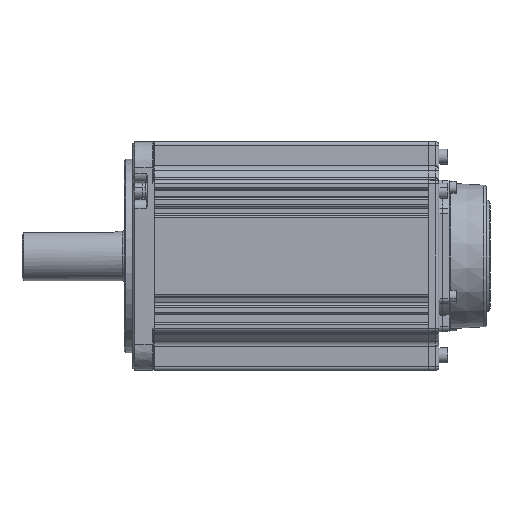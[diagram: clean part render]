
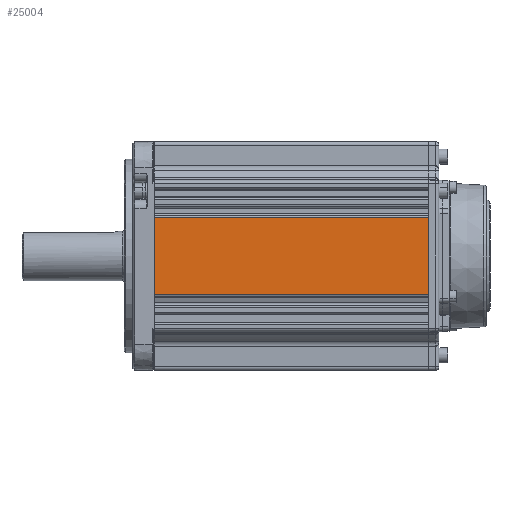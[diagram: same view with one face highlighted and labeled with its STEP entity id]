
A CAD part, front view. The second image highlights one B-rep face of the part: STEP entity #25004.
In plain terms, the highlighted planar face has unit normal (0, -1, 0).
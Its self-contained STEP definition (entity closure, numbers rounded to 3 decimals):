
#3138 = CARTESIAN_POINT ( 'NONE',  ( 77.9, -65., -22. ) ) ;
#3987 = LINE ( 'NONE', #39125, #22874 ) ;
#4194 = VECTOR ( 'NONE', #31611, 1000. ) ;
#6220 = LINE ( 'NONE', #52843, #4194 ) ;
#6761 = EDGE_CURVE ( 'NONE', #12736, #20125, #6220, .T. ) ;
#6791 = FACE_OUTER_BOUND ( 'NONE', #7790, .T. ) ;
#7790 = EDGE_LOOP ( 'NONE', ( #23224, #45431, #9760, #54465 ) ) ;
#8380 = LINE ( 'NONE', #21197, #10308 ) ;
#9760 = ORIENTED_EDGE ( 'NONE', *, *, #49477, .F. ) ;
#10308 = VECTOR ( 'NONE', #43243, 1000. ) ;
#11306 = LINE ( 'NONE', #40866, #31458 ) ;
#12736 = VERTEX_POINT ( 'NONE', #13371 ) ;
#13371 = CARTESIAN_POINT ( 'NONE',  ( 77.9, -65., 22. ) ) ;
#15438 = EDGE_CURVE ( 'NONE', #43371, #47857, #11306, .T. ) ;
#16002 = DIRECTION ( 'NONE',  ( 0., 0., 1. ) ) ;
#20125 = VERTEX_POINT ( 'NONE', #54251 ) ;
#21197 = CARTESIAN_POINT ( 'NONE',  ( -77.9, -65., -43. ) ) ;
#22874 = VECTOR ( 'NONE', #27560, 1000. ) ;
#23224 = ORIENTED_EDGE ( 'NONE', *, *, #52816, .F. ) ;
#24067 = DIRECTION ( 'NONE',  ( 0., 1., 0. ) ) ;
#25004 = ADVANCED_FACE ( 'NONE', ( #6791 ), #32737, .F. ) ;
#27028 = AXIS2_PLACEMENT_3D ( 'NONE', #49481, #24067, #16002 ) ;
#27560 = DIRECTION ( 'NONE',  ( 0., 0., -1. ) ) ;
#28575 = DIRECTION ( 'NONE',  ( 1., 0., 0. ) ) ;
#30258 = CARTESIAN_POINT ( 'NONE',  ( -77.9, -65., -22. ) ) ;
#31458 = VECTOR ( 'NONE', #28575, 1000. ) ;
#31611 = DIRECTION ( 'NONE',  ( -1., 0., 0. ) ) ;
#32737 = PLANE ( 'NONE',  #27028 ) ;
#39125 = CARTESIAN_POINT ( 'NONE',  ( 77.9, -65., -43. ) ) ;
#40866 = CARTESIAN_POINT ( 'NONE',  ( 78.4, -65., -22. ) ) ;
#43243 = DIRECTION ( 'NONE',  ( 0., 0., 1. ) ) ;
#43371 = VERTEX_POINT ( 'NONE', #30258 ) ;
#45431 = ORIENTED_EDGE ( 'NONE', *, *, #6761, .T. ) ;
#47857 = VERTEX_POINT ( 'NONE', #3138 ) ;
#49477 = EDGE_CURVE ( 'NONE', #43371, #20125, #8380, .T. ) ;
#49481 = CARTESIAN_POINT ( 'NONE',  ( 78.4, -65., -43. ) ) ;
#52816 = EDGE_CURVE ( 'NONE', #12736, #47857, #3987, .T. ) ;
#52843 = CARTESIAN_POINT ( 'NONE',  ( 78.4, -65., 22. ) ) ;
#54251 = CARTESIAN_POINT ( 'NONE',  ( -77.9, -65., 22. ) ) ;
#54465 = ORIENTED_EDGE ( 'NONE', *, *, #15438, .T. ) ;
